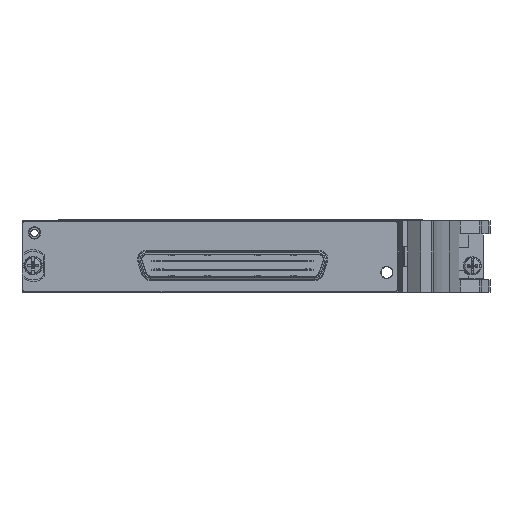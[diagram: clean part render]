
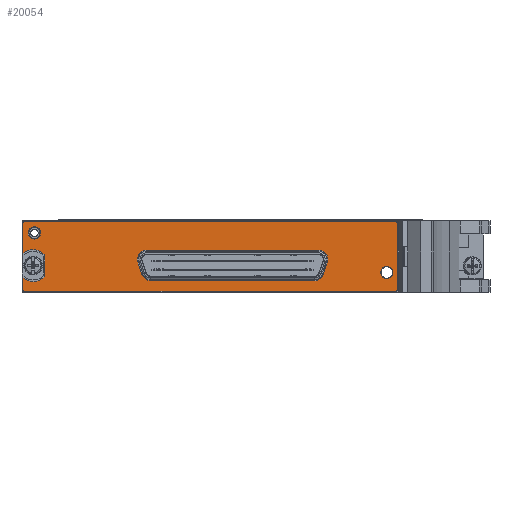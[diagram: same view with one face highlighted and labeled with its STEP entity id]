
A CAD part, left-side view. The second image highlights one B-rep face of the part: STEP entity #20054.
In plain terms, the highlighted planar face has unit normal (-1, 0, 0).
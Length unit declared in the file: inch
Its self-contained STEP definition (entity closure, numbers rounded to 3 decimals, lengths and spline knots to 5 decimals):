
#186=CARTESIAN_POINT('',(-4.289,0.53465,0.6665));
#187=DIRECTION('',(-1.,0.,0.));
#188=DIRECTION('',(0.,0.,1.));
#189=AXIS2_PLACEMENT_3D('',#186,#187,#188);
#191=DIRECTION('',(0.,1.,0.));
#192=VECTOR('',#191,4.07);
#193=CARTESIAN_POINT('',(-4.289,-3.53535,0.6865));
#194=LINE('',#193,#192);
#195=CARTESIAN_POINT('',(-4.289,-3.53535,0.6665));
#196=DIRECTION('',(-1.,0.,0.));
#197=DIRECTION('',(0.,-1.,0.));
#198=AXIS2_PLACEMENT_3D('',#195,#196,#197);
#200=DIRECTION('',(0.,0.,1.));
#201=VECTOR('',#200,0.728);
#202=CARTESIAN_POINT('',(-4.289,-3.55535,-0.0615));
#203=LINE('',#202,#201);
#204=CARTESIAN_POINT('',(-4.289,-3.53535,-0.0615));
#205=DIRECTION('',(-1.,0.,0.));
#206=DIRECTION('',(0.,0.,-1.));
#207=AXIS2_PLACEMENT_3D('',#204,#205,#206);
#209=DIRECTION('',(0.,-1.,0.));
#210=VECTOR('',#209,4.07);
#211=CARTESIAN_POINT('',(-4.289,0.53465,-0.0815));
#212=LINE('',#211,#210);
#213=CARTESIAN_POINT('',(-4.289,0.53465,-0.0615));
#214=DIRECTION('',(-1.,0.,0.));
#215=DIRECTION('',(0.,1.,0.));
#216=AXIS2_PLACEMENT_3D('',#213,#214,#215);
#218=DIRECTION('',(0.,0.,-1.));
#219=VECTOR('',#218,0.12953);
#220=CARTESIAN_POINT('',(-4.289,0.55465,0.06803));
#221=LINE('',#220,#219);
#222=CARTESIAN_POINT('',(-4.289,0.44265,0.2025));
#223=DIRECTION('',(1.,0.,0.));
#224=DIRECTION('',(0.,-0.737,-0.676));
#225=AXIS2_PLACEMENT_3D('',#222,#223,#224);
#227=DIRECTION('',(0.,0.,-1.));
#228=VECTOR('',#227,0.23651);
#229=CARTESIAN_POINT('',(-4.289,0.31365,0.32075));
#230=LINE('',#229,#228);
#231=CARTESIAN_POINT('',(-4.289,0.44265,0.2025));
#232=DIRECTION('',(1.,0.,0.));
#233=DIRECTION('',(0.,0.64,0.768));
#234=AXIS2_PLACEMENT_3D('',#231,#232,#233);
#236=DIRECTION('',(0.,0.,-1.));
#237=VECTOR('',#236,0.32953);
#238=CARTESIAN_POINT('',(-4.289,0.55465,0.6665));
#239=LINE('',#238,#237);
#240=CARTESIAN_POINT('',(-4.289,0.42838,0.5615));
#241=DIRECTION('',(-1.,0.,0.));
#242=DIRECTION('',(0.,0.,1.));
#243=AXIS2_PLACEMENT_3D('',#240,#241,#242);
#245=CARTESIAN_POINT('',(-4.289,0.42838,0.5615));
#246=DIRECTION('',(-1.,0.,0.));
#247=DIRECTION('',(0.,0.,-1.));
#248=AXIS2_PLACEMENT_3D('',#245,#246,#247);
#250=CARTESIAN_POINT('',(-4.289,-3.44062,0.1275));
#251=DIRECTION('',(-1.,0.,0.));
#252=DIRECTION('',(0.,0.,1.));
#253=AXIS2_PLACEMENT_3D('',#250,#251,#252);
#255=CARTESIAN_POINT('',(-4.289,-3.44062,0.1275));
#256=DIRECTION('',(-1.,0.,0.));
#257=DIRECTION('',(0.,0.,-1.));
#258=AXIS2_PLACEMENT_3D('',#255,#256,#257);
#260=CARTESIAN_POINT('',(-4.289,-0.80112,0.27333));
#261=DIRECTION('',(-1.,0.,0.));
#262=DIRECTION('',(0.,0.,1.));
#263=AXIS2_PLACEMENT_3D('',#260,#261,#262);
#265=DIRECTION('',(0.,-0.309,-0.951));
#266=VECTOR('',#265,0.14343);
#267=CARTESIAN_POINT('',(-4.289,-0.70697,0.24274));
#268=LINE('',#267,#266);
#269=CARTESIAN_POINT('',(-4.289,-0.84544,0.13692));
#270=DIRECTION('',(-1.,0.,0.));
#271=DIRECTION('',(0.,0.951,-0.309));
#272=AXIS2_PLACEMENT_3D('',#269,#270,#271);
#274=DIRECTION('',(0.,-1.,0.));
#275=VECTOR('',#274,1.80359);
#276=CARTESIAN_POINT('',(-4.289,-0.84544,0.03792));
#277=LINE('',#276,#275);
#278=CARTESIAN_POINT('',(-4.289,-2.64904,0.13692));
#279=DIRECTION('',(-1.,0.,0.));
#280=DIRECTION('',(0.,0.,-1.));
#281=AXIS2_PLACEMENT_3D('',#278,#279,#280);
#283=DIRECTION('',(0.,-0.309,0.951));
#284=VECTOR('',#283,0.14343);
#285=CARTESIAN_POINT('',(-4.289,-2.74319,0.10633));
#286=LINE('',#285,#284);
#287=CARTESIAN_POINT('',(-4.289,-2.69336,0.27333));
#288=DIRECTION('',(-1.,0.,0.));
#289=DIRECTION('',(0.,-0.951,-0.309));
#290=AXIS2_PLACEMENT_3D('',#287,#288,#289);
#292=DIRECTION('',(0.,1.,0.));
#293=VECTOR('',#292,1.89224);
#294=CARTESIAN_POINT('',(-4.289,-2.69336,0.37233));
#295=LINE('',#294,#293);
#15567=CARTESIAN_POINT('',(-4.289,0.53465,0.6865));
#15568=CARTESIAN_POINT('',(-4.289,0.55465,0.6665));
#15569=VERTEX_POINT('',#15567);
#15570=VERTEX_POINT('',#15568);
#15571=CARTESIAN_POINT('',(-4.289,0.55465,0.33697));
#15572=VERTEX_POINT('',#15571);
#15573=CARTESIAN_POINT('',(-4.289,0.31365,0.32075));
#15574=VERTEX_POINT('',#15573);
#15575=CARTESIAN_POINT('',(-4.289,0.31365,0.08425));
#15576=VERTEX_POINT('',#15575);
#15577=CARTESIAN_POINT('',(-4.289,0.55465,0.06803));
#15578=VERTEX_POINT('',#15577);
#15579=CARTESIAN_POINT('',(-4.289,0.55465,-0.0615));
#15580=VERTEX_POINT('',#15579);
#15581=CARTESIAN_POINT('',(-4.289,0.53465,-0.0815));
#15582=VERTEX_POINT('',#15581);
#15583=CARTESIAN_POINT('',(-4.289,-3.53535,-0.0815));
#15584=VERTEX_POINT('',#15583);
#15585=CARTESIAN_POINT('',(-4.289,-3.55535,-0.0615));
#15586=VERTEX_POINT('',#15585);
#15587=CARTESIAN_POINT('',(-4.289,-3.55535,0.6665));
#15588=VERTEX_POINT('',#15587);
#15589=CARTESIAN_POINT('',(-4.289,-3.53535,0.6865));
#15590=VERTEX_POINT('',#15589);
#15591=CARTESIAN_POINT('',(-4.289,0.42838,0.629));
#15592=CARTESIAN_POINT('',(-4.289,0.42838,0.494));
#15593=VERTEX_POINT('',#15591);
#15594=VERTEX_POINT('',#15592);
#15595=CARTESIAN_POINT('',(-4.289,-3.44062,0.195));
#15596=CARTESIAN_POINT('',(-4.289,-3.44062,0.06));
#15597=VERTEX_POINT('',#15595);
#15598=VERTEX_POINT('',#15596);
#15599=CARTESIAN_POINT('',(-4.289,-0.80112,0.37233));
#15600=CARTESIAN_POINT('',(-4.289,-0.70697,0.24274));
#15601=VERTEX_POINT('',#15599);
#15602=VERTEX_POINT('',#15600);
#15603=CARTESIAN_POINT('',(-4.289,-0.75129,0.10633));
#15604=VERTEX_POINT('',#15603);
#15605=CARTESIAN_POINT('',(-4.289,-0.84544,0.03792));
#15606=VERTEX_POINT('',#15605);
#15607=CARTESIAN_POINT('',(-4.289,-2.64904,0.03792));
#15608=VERTEX_POINT('',#15607);
#15609=CARTESIAN_POINT('',(-4.289,-2.74319,0.10633));
#15610=VERTEX_POINT('',#15609);
#15611=CARTESIAN_POINT('',(-4.289,-2.78751,0.24274));
#15612=VERTEX_POINT('',#15611);
#15613=CARTESIAN_POINT('',(-4.289,-2.69336,0.37233));
#15614=VERTEX_POINT('',#15613);
#20001=CARTESIAN_POINT('',(-4.289,0.44265,0.2025));
#20002=DIRECTION('',(-1.,0.,0.));
#20003=DIRECTION('',(0.,0.,1.));
#20004=AXIS2_PLACEMENT_3D('',#20001,#20002,#20003);
#20005=PLANE('',#20004);
#20007=ORIENTED_EDGE('',*,*,#20006,.F.);
#20009=ORIENTED_EDGE('',*,*,#20008,.F.);
#20011=ORIENTED_EDGE('',*,*,#20010,.F.);
#20013=ORIENTED_EDGE('',*,*,#20012,.F.);
#20015=ORIENTED_EDGE('',*,*,#20014,.F.);
#20017=ORIENTED_EDGE('',*,*,#20016,.F.);
#20019=ORIENTED_EDGE('',*,*,#20018,.F.);
#20021=ORIENTED_EDGE('',*,*,#20020,.F.);
#20023=ORIENTED_EDGE('',*,*,#20022,.F.);
#20025=ORIENTED_EDGE('',*,*,#20024,.F.);
#20027=ORIENTED_EDGE('',*,*,#20026,.F.);
#20029=ORIENTED_EDGE('',*,*,#20028,.F.);
#20030=EDGE_LOOP('',(#20007,#20009,#20011,#20013,#20015,#20017,#20019,#20021,
#20023,#20025,#20027,#20029));
#20031=FACE_OUTER_BOUND('',#20030,.F.);
#20033=ORIENTED_EDGE('',*,*,#20032,.T.);
#20035=ORIENTED_EDGE('',*,*,#20034,.T.);
#20036=EDGE_LOOP('',(#20033,#20035));
#20037=FACE_BOUND('',#20036,.F.);
#20039=ORIENTED_EDGE('',*,*,#20038,.T.);
#20041=ORIENTED_EDGE('',*,*,#20040,.T.);
#20042=EDGE_LOOP('',(#20039,#20041));
#20043=FACE_BOUND('',#20042,.F.);
#20044=ORIENTED_EDGE('',*,*,#19897,.T.);
#20045=ORIENTED_EDGE('',*,*,#19912,.T.);
#20046=ORIENTED_EDGE('',*,*,#19926,.T.);
#20047=ORIENTED_EDGE('',*,*,#19940,.T.);
#20048=ORIENTED_EDGE('',*,*,#19954,.T.);
#20049=ORIENTED_EDGE('',*,*,#19968,.T.);
#20050=ORIENTED_EDGE('',*,*,#19982,.T.);
#20051=ORIENTED_EDGE('',*,*,#19995,.T.);
#20052=EDGE_LOOP('',(#20044,#20045,#20046,#20047,#20048,#20049,#20050,#20051));
#20053=FACE_BOUND('',#20052,.F.);
#20054=ADVANCED_FACE('',(#20031,#20037,#20043,#20053),#20005,.T.);
#190=CIRCLE('',#189,0.02);
#199=CIRCLE('',#198,0.02);
#208=CIRCLE('',#207,0.02);
#217=CIRCLE('',#216,0.02);
#226=CIRCLE('',#225,0.175);
#235=CIRCLE('',#234,0.175);
#244=CIRCLE('',#243,0.0675);
#249=CIRCLE('',#248,0.0675);
#254=CIRCLE('',#253,0.0675);
#259=CIRCLE('',#258,0.0675);
#264=CIRCLE('',#263,0.099);
#273=CIRCLE('',#272,0.099);
#282=CIRCLE('',#281,0.099);
#291=CIRCLE('',#290,0.099);
#19897=EDGE_CURVE('',#15601,#15602,#264,.T.);
#19912=EDGE_CURVE('',#15602,#15604,#268,.T.);
#19926=EDGE_CURVE('',#15604,#15606,#273,.T.);
#19940=EDGE_CURVE('',#15606,#15608,#277,.T.);
#19954=EDGE_CURVE('',#15608,#15610,#282,.T.);
#19968=EDGE_CURVE('',#15610,#15612,#286,.T.);
#19982=EDGE_CURVE('',#15612,#15614,#291,.T.);
#19995=EDGE_CURVE('',#15614,#15601,#295,.T.);
#20006=EDGE_CURVE('',#15569,#15570,#190,.T.);
#20008=EDGE_CURVE('',#15590,#15569,#194,.T.);
#20010=EDGE_CURVE('',#15588,#15590,#199,.T.);
#20012=EDGE_CURVE('',#15586,#15588,#203,.T.);
#20014=EDGE_CURVE('',#15584,#15586,#208,.T.);
#20016=EDGE_CURVE('',#15582,#15584,#212,.T.);
#20018=EDGE_CURVE('',#15580,#15582,#217,.T.);
#20020=EDGE_CURVE('',#15578,#15580,#221,.T.);
#20022=EDGE_CURVE('',#15576,#15578,#226,.T.);
#20024=EDGE_CURVE('',#15574,#15576,#230,.T.);
#20026=EDGE_CURVE('',#15572,#15574,#235,.T.);
#20028=EDGE_CURVE('',#15570,#15572,#239,.T.);
#20032=EDGE_CURVE('',#15593,#15594,#244,.T.);
#20034=EDGE_CURVE('',#15594,#15593,#249,.T.);
#20038=EDGE_CURVE('',#15597,#15598,#254,.T.);
#20040=EDGE_CURVE('',#15598,#15597,#259,.T.);
